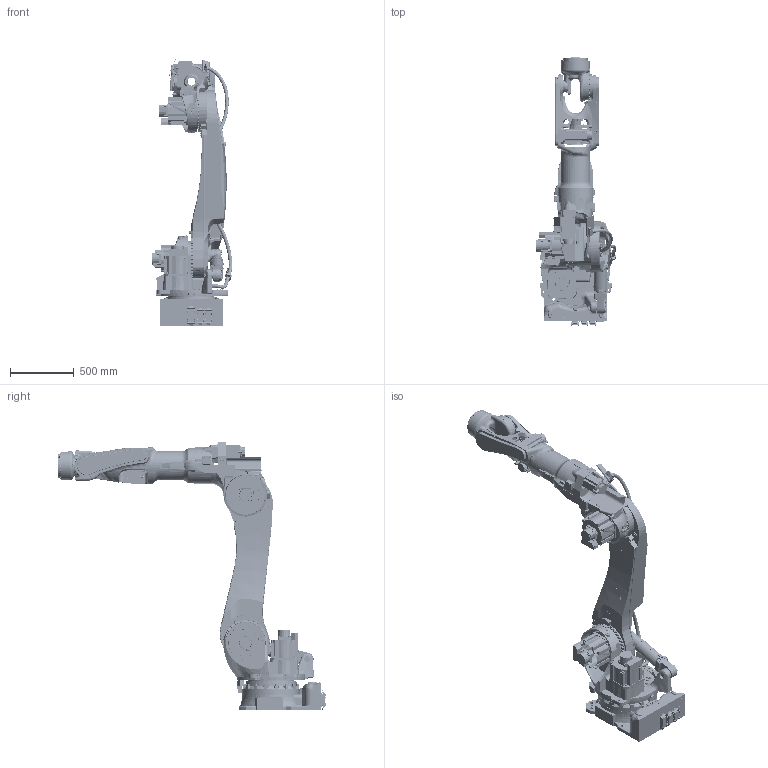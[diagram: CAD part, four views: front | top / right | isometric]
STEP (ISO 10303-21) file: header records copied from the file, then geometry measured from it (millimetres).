
FILE_DESCRIPTION(('CATIA V5 STEP Exchange'),'2;1');
FILE_NAME('D:\モデリング\☆☆☆STEP\BX\BX200\BX200L-C001_190517_200630\RARAS_200630\Part\BX165L-C501\BX165L-C501.stp','2020-07-01T04:26:57+00:00',('none'),('none'),'CATIA Version 5-6 Release 2016 SP6 HF14','CATIA V5 STEP AP203','none');
FILE_SCHEMA(('CONFIG_CONTROL_DESIGN'));
Products named in the file (1): BX165L-C501
Assembly tree (10 placements, depth 2):
  BX165L-C501
    #57
    #45404
    #81600
    #90435
    #94882
    #131197
    #177654
    #273229
    #324000
    #327640
Bounding box: 630.88 x 2108.75 x 2107.57 mm (x, y, z)
Volume: 205499227 mm3; surface area: 10474447.4 mm2
Topology: 25 solids, 27 shells, 7670 faces, 20077 edges, 12898 vertices
Faces by surface type: plane 3126, cylinder 2516, bspline 846, cone 477, extrusion 354, torus 183, revolution 109, sphere 59
Entity records: 330396 total; most frequent: CARTESIAN_POINT 161258, ORIENTED_EDGE 39814, DIRECTION 25020, EDGE_CURVE 19907, VERTEX_POINT 12892, AXIS2_PLACEMENT_3D 10674, VECTOR 9160, LINE 8806
